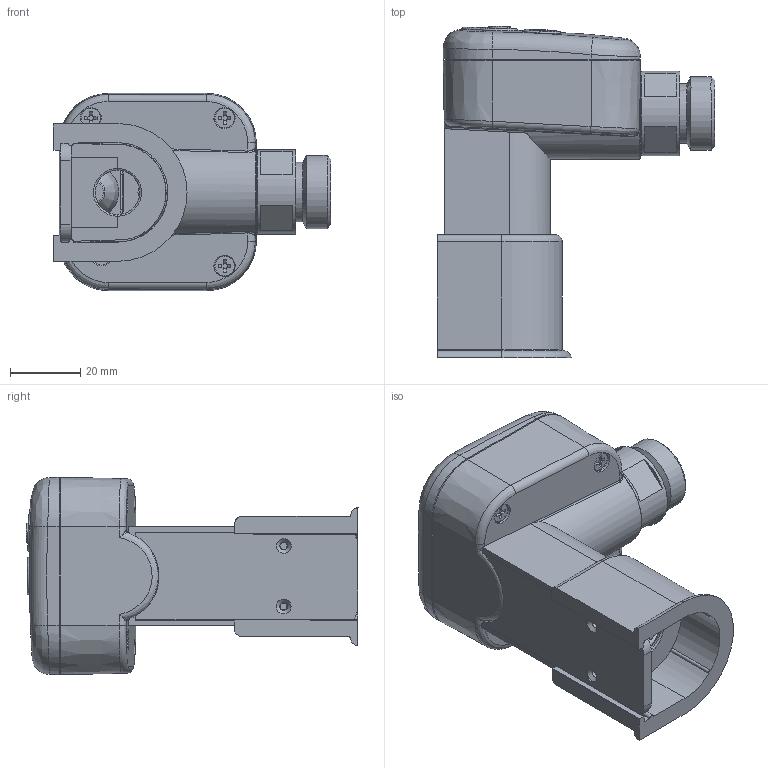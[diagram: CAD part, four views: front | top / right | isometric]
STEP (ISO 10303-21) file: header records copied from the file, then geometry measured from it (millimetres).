
FILE_DESCRIPTION((''),'2;1');
FILE_NAME('F:\DAHL\HQT_HEC- hiden cable_DAHL.stp','2016-07-25T10:45:51',('tomek_b'),(''),'Autodesk Inventor 2012','Autodesk Inventor 2012','');
FILE_SCHEMA(('AUTOMOTIVE_DESIGN { 1 0 10303 214 1 1 1 1 }'));
Products named in the file (14): HQT_HEC- hiden cable_DAHL; korpus; głowica_v2; front; oring60x1-2; przyciski3; sztbkaLED; BN 82427-3x20; odciazka; oring18x1; Zespół10; maskownica_cz1_10; maskownica_cz2_10; maskownica_cz3_20
Assembly tree (16 placements, depth 3):
  HQT_HEC- hiden cable_DAHL
    korpus
    głowica_v2
    front
    oring60x1-2
    przyciski3
    sztbkaLED
    BN 82427-3x20  x4
    odciazka
    oring18x1
    Zespół10
      maskownica_cz1_10
      maskownica_cz2_10
    maskownica_cz3_20
Bounding box: 78.93 x 94.3 x 56 mm (x, y, z)
Volume: 57515.7 mm3; surface area: 59169.4 mm2
Topology: 15 solids, 15 shells, 837 faces, 2019 edges, 1287 vertices
Faces by surface type: plane 366, cylinder 226, cone 87, bspline 78, torus 51, sphere 18, revolution 11
Full cylindrical faces by diameter (mm): 1 x4, 2 x2, 2.2 x2, 2.4 x2, 2.6 x4, 3 x4, 3.2 x4, 3.6 x2, 4 x1, 4.2 x4, 5 x4, 5.5 x4, 6 x7, 6.4 x1, 6.6 x2, 8.9 x3, 9.4 x1, 10.7 x3, 10.8 x3, 11.2 x3, 11.9 x3, 12 x3, 12.5 x3, 16 x2, 17 x1, 18 x1, 19.1 x2, 19.3 x1, 20.8 x1, 21 x1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
Entity records: 30604 total; most frequent: CARTESIAN_POINT 12632, DIRECTION 3678, ORIENTED_EDGE 3388, EDGE_CURVE 1694, AXIS2_PLACEMENT_3D 1468, VERTEX_POINT 1149, EDGE_LOOP 1027, FACE_OUTER_BOUND 774
